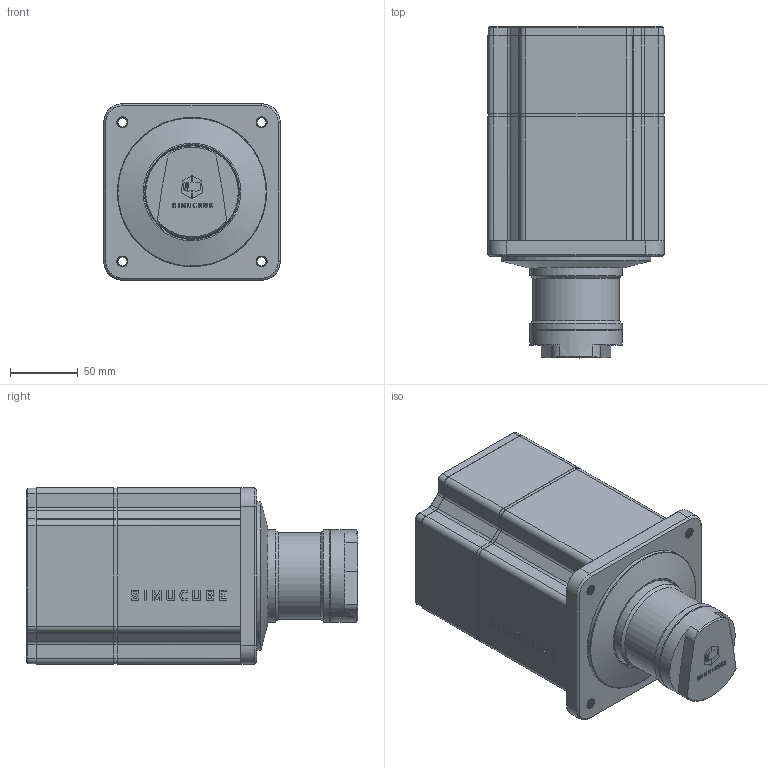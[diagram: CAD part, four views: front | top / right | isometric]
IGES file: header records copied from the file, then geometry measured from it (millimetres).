
Global section: file name: simucube2_r2_sport_full_simplified v2; native system: unknown; preprocessor: unknown; author: unknown; organization: unknown; date: 20220328.120233; units: millimetre
Bounding box: 130 x 244.5 x 130 mm (x, y, z)
Volume: 2799246.1 mm3; surface area: 143695.3 mm2
Topology: 1 solids, 2 shells, 771 faces, 2245 edges, 1530 vertices
Faces by surface type: bspline 771
